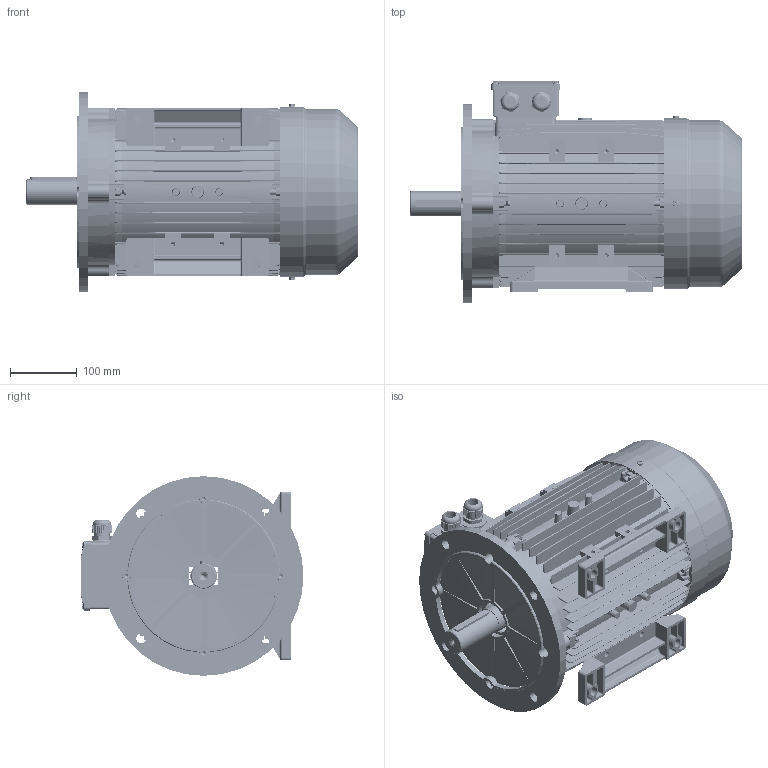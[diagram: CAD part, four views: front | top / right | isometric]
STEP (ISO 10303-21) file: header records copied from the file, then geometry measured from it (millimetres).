
FILE_DESCRIPTION (( 'STEP AP203' ), '1' );
FILE_NAME ('MSL132L assembly B35.STEP', '2017-11-26T10:11:58', ( 'user' ), ( 'china' ), 'SwSTEP 2.0', 'SolidWorks 2016', '' );
FILE_SCHEMA (( 'CONFIG_CONTROL_DESIGN' ));
Length unit declared in the file: millimetre
Products named in the file (17): M25 cable gland; MS132 綴裔瑞欶郪磁; M132儂褲_L; GB-T 29.2-1988 M4鞠褒坋趼湍菜_05; MS132諉盄碟裔(苤); MSL132L assembly B35; M132傷裔B3_NonDrive; M132傷裔B5; GB-T 29.2-1988 M5鞠褒坋趼湍菜_10; GB-T 5780-2000 M8_040; M132瑞欶_117; GB-T 70.1-2000 M8_40; M132-Shaft drive end_DNF; MS132諉盄碟釱(苤)_2Holes; M132菁褐(等謂)_L; GB-T 41-2000 M8; M112-132諉盄碟(苤)
Assembly tree (36 placements, depth 3):
  MSL132L assembly B35
    M132儂褲_L
    M132-Shaft drive end_DNF
    M132菁褐(等謂)_L  x2
    MS132 綴裔瑞欶郪磁
      M132傷裔B3_NonDrive
      M132瑞欶_117
      GB-T 29.2-1988 M5鞠褒坋趼湍菜_10  x3
    GB-T 41-2000 M8  x8
    GB-T 70.1-2000 M8_40  x4
    M132傷裔B5
    M112-132諉盄碟(苤)
      MS132諉盄碟釱(苤)_2Holes
      MS132諉盄碟裔(苤)
      GB-T 29.2-1988 M4鞠褒坋趼湍菜_05  x4
      M25 cable gland  x2
    GB-T 5780-2000 M8_040  x4
Bounding box: 499 x 335 x 300 mm (x, y, z)
Volume: 3239006.3 mm3; surface area: 1643309.8 mm2
Topology: 36 solids, 36 shells, 5777 faces, 15071 edges, 9393 vertices
Faces by surface type: plane 2409, cylinder 1524, cone 1108, bspline 596, torus 128, sphere 12
Entity records: 161649 total; most frequent: CARTESIAN_POINT 63837, ORIENTED_EDGE 21208, DIRECTION 17995, EDGE_CURVE 10604, VERTEX_POINT 6725, AXIS2_PLACEMENT_3D 6004, VECTOR 5987, LINE 5987
